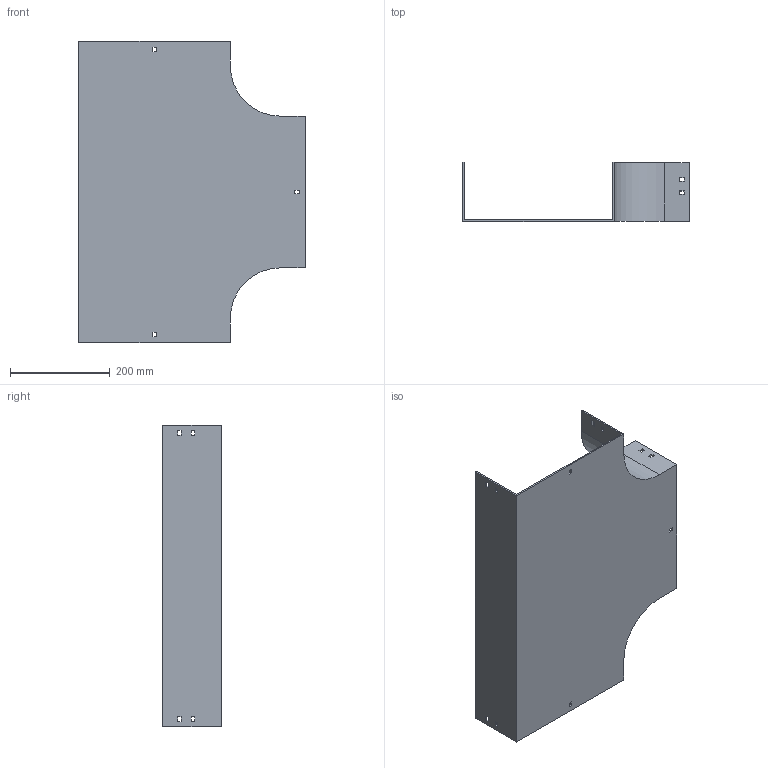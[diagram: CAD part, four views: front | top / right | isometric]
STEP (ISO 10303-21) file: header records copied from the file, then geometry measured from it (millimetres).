
FILE_DESCRIPTION (( 'STEP AP214' ), '1' );
FILE_NAME ('15B1J300.step', '2025-02-21T09:53:44', ( '' ), ( '' ), 'SwSTEP 2.0', 'SolidWorks 2023', '' );
FILE_SCHEMA (( 'AUTOMOTIVE_DESIGN' ));
Length unit declared in the file: millimetre
Products named in the file (1): 15B1J300
Bounding box: 454 x 117.5 x 604 mm (x, y, z)
Volume: 1262063 mm3; surface area: 732431.9 mm2
Topology: 1 solids, 1 shells, 82 faces, 240 edges, 160 vertices
Faces by surface type: plane 78, cylinder 4
Entity records: 2755 total; most frequent: CARTESIAN_POINT 483, ORIENTED_EDGE 480, DIRECTION 414, EDGE_CURVE 240, VECTOR 232, LINE 232, VERTEX_POINT 160, EDGE_LOOP 112
